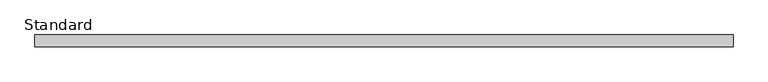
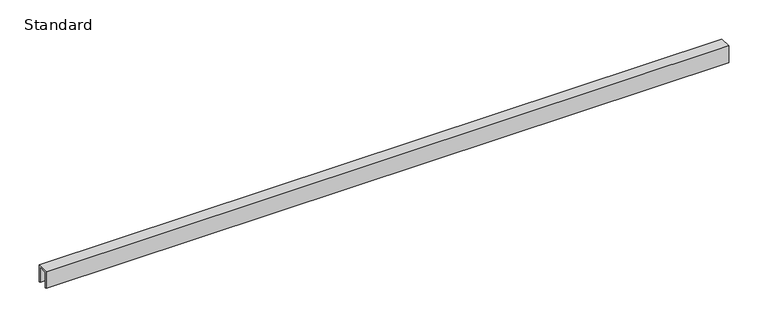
"""IFC4 building model written with IfcOpenShell, lengths in millimetres: furniture geometry, X_Partition-Channel-Duracube-Ceiling : Standard."""

from ifc_helpers import new_model, si_unit, frame, origin, place, context, project, spatial, polyline, outline, extrude, source, transform, mapped, element, save


def standard_5e636450(model_context):
    return source(origin(), model_context, "Body", "SweptSolid", [
        extrude(outline(polyline([(0.0, 0.0), (-2.0, 0.0), (-2.0, 24.0), (-15.0, 24.0), (-15.0, 0.0), (-17.0, 0.0), (-17.0, 26.0), (0.0, 26.0), (0.0, 0.0)])), frame((-456.2996736, 0.0, 0.0), z_axis=(1.0, 0.0, 0.0), x_axis=(0.0, 1.0, 0.0)), (0.0, 0.0, 1.0), 1002.0),
    ])


if __name__ == "__main__":
    model = new_model("IFC4")
    model_context = context("Model", 3, world=origin())
    ifc_project = project(units=[si_unit("LENGTHUNIT", "METRE", prefix="MILLI")], contexts=[model_context])
    site = spatial("IfcSite", under=ifc_project)
    building = spatial("IfcBuilding", under=site)
    placement = place(None, origin())
    standard_shape = standard_5e636450(model_context)
    element("IfcFurniture", 1, ObjectType="X_Partition-Channel-Duracube-Ceiling : Standard", at=placement, inside=building, context=model_context, shape_type="MappedRepresentation", body=[
        mapped(standard_shape, transform((0.0, 0.0, 0.0), x_axis=(1.0, 0.0, 0.0), y_axis=(0.0, 1.0, 0.0), z_axis=(0.0, 0.0, 1.0))),
    ])
    save(model, "model.ifc")
